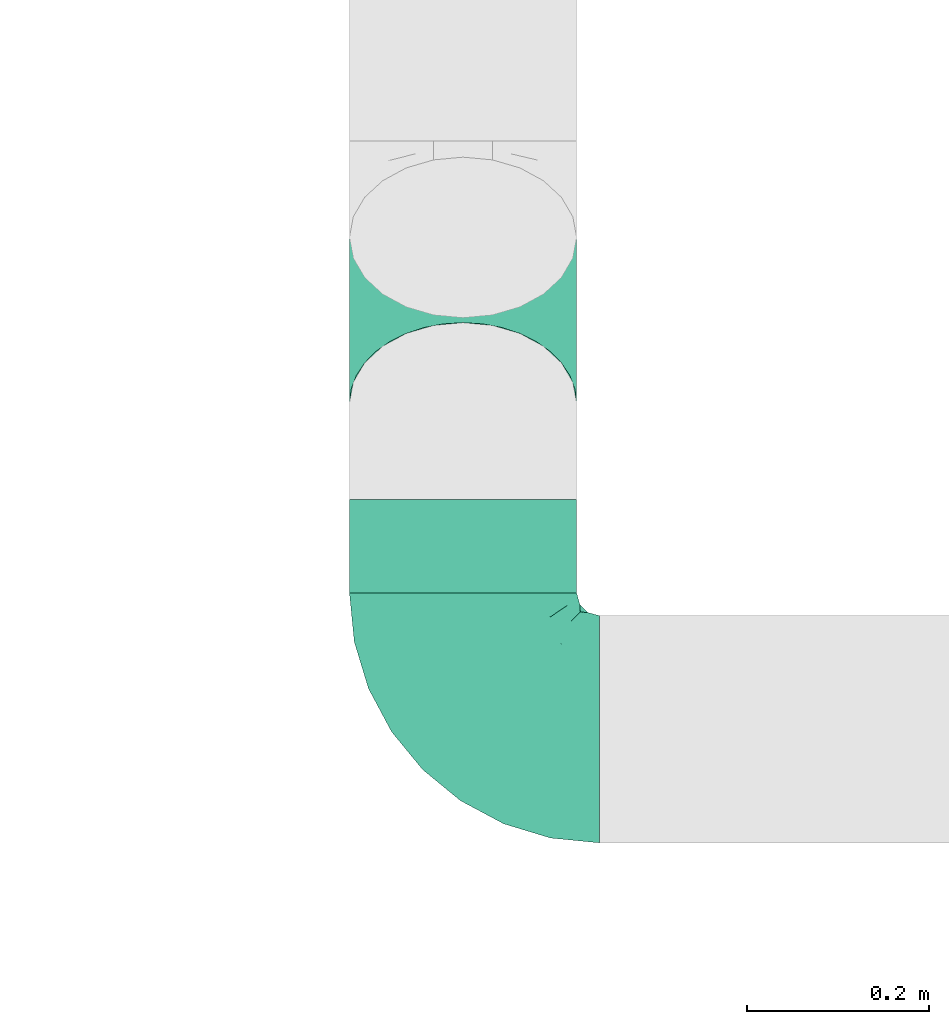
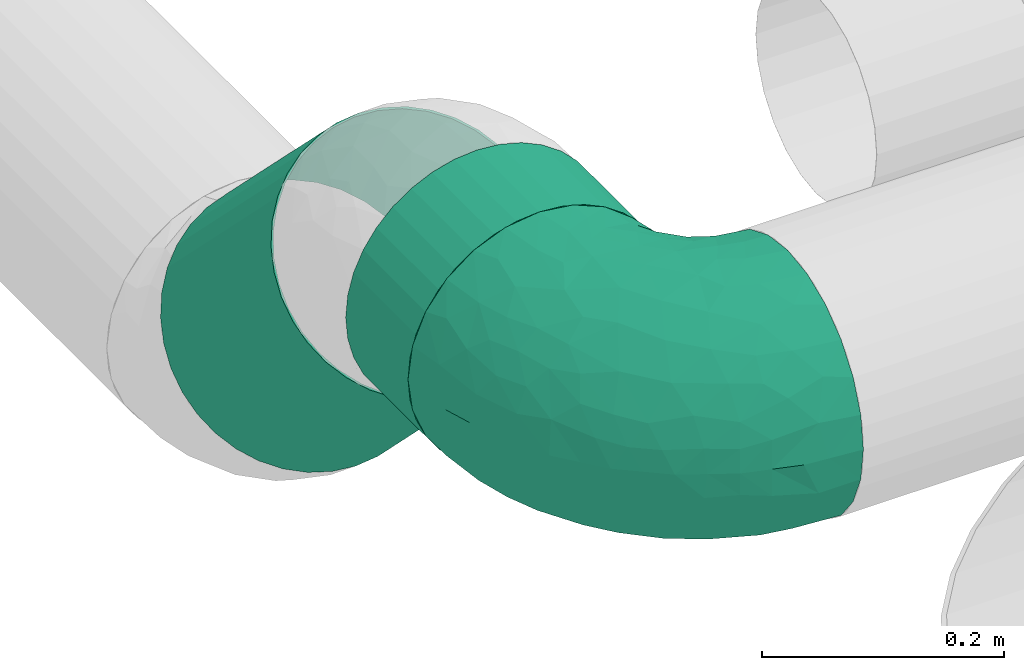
# One storey, part 13 of 31: 2 flow segments, 1 flow fitting.
"""IFC2X3 building model written with IfcOpenShell, lengths in millimetres."""

from ifc_helpers import new_model, entity, si_unit, converted_unit, derived_unit, direction, frame, origin_with_axes, origin_2d_with_axis, place, context, subcontext, project, spatial, hollow_circle, extrude, open_shell, surface_model, source, transform, mapped, type_object, element, save


model = new_model("IFC2X3")

# Units and contexts
model_context = context("Model", 3, precision=0.01, world=frame((0.0, 4.29681676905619e-09, 0.0)), true_north=direction((4.01073788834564e-13, 1.0)))
plan_context = context("Plan", 3, precision=0.01, world=frame((0.0, 4.29681676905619e-09, 0.0)), true_north=direction((4.01073788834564e-13, 1.0)))
body_context = subcontext(model_context, "Body", "Model", "MODEL_VIEW")
ifc_project = project(units=[converted_unit("PLANEANGLEUNIT", "DEGREE", entity("IfcPositiveLengthMeasure", 0.0174532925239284), si_unit("PLANEANGLEUNIT", "RADIAN"), dimensions=[0, 0, 0, 0, 0, 0, 0]), si_unit("AREAUNIT", "SQUARE_METRE"), si_unit("LENGTHUNIT", "METRE", prefix="MILLI"), si_unit("MASSUNIT", "GRAM", prefix="KILO"), si_unit("POWERUNIT", "WATT"), si_unit("PRESSUREUNIT", "PASCAL", prefix="KILO"), si_unit("FORCEUNIT", "NEWTON", prefix="KILO"), si_unit("ELECTRICVOLTAGEUNIT", "VOLT"), si_unit("ELECTRICCURRENTUNIT", "AMPERE"), si_unit("THERMODYNAMICTEMPERATUREUNIT", "DEGREE_CELSIUS"), si_unit("TIMEUNIT", "SECOND"), si_unit("VOLUMEUNIT", "CUBIC_METRE"), derived_unit("LINEARVELOCITYUNIT", [(si_unit("LENGTHUNIT", "METRE"), 1), (si_unit("TIMEUNIT", "SECOND"), -1)]), derived_unit("VOLUMETRICFLOWRATEUNIT", [(si_unit("VOLUMEUNIT", "CUBIC_METRE"), 1), (si_unit("TIMEUNIT", "SECOND"), -1)]), derived_unit("THERMALTRANSMITTANCEUNIT", [(si_unit("POWERUNIT", "WATT"), 1), (si_unit("THERMODYNAMICTEMPERATUREUNIT", "KELVIN"), -1), (si_unit("AREAUNIT", "SQUARE_METRE"), -1)]), derived_unit("SOUNDPRESSUREUNIT", [(si_unit("PRESSUREUNIT", "PASCAL"), 1)])], contexts=[model_context, plan_context])

# Site, building, storey
site_placement = place(None, frame((0.0, -4.29681676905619e-09, 0.0), z_axis=(0.0, 0.0, 1.0), x_axis=(1.0, 0.0, 0.0)))
site = spatial("IfcSite", under=ifc_project, at=site_placement, CompositionType="ELEMENT")
building_placement = place(site_placement, frame((0.0, 4.29681676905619e-09, 0.0), z_axis=(0.0, 0.0, 1.0), x_axis=(1.0, 0.0, 0.0)))
building = spatial("IfcBuilding", under=site, at=building_placement, Name="mc-building", CompositionType="ELEMENT")
storey_placement = place(building_placement, frame((0.0, 0.0, 210900.0), z_axis=(0.0, 0.0, 1.0), x_axis=(1.0, 0.0, 0.0)))
storey = spatial("IfcBuildingStorey", under=building, at=storey_placement, Name="Nivå F", CompositionType="ELEMENT", Elevation=210900.0)

# Flow fitting
duct_fitting_type = type_object("IfcDuctFittingType", Name="magicirc_elbow_short_001", PredefinedType="BEND")
shared_shape_1 = source(origin_with_axes(), body_context, "Body", "SurfaceModel", [
    surface_model("IfcShellBasedSurfaceModel", [(-150.0, 0.0, -125.0), (-150.0, -32.35238, -120.74073), (-150.0, 32.35238, -120.74073), (-150.0, 62.5, -108.25318), (-150.0, 88.38835, -88.38835), (-150.0, 108.25318, -62.5), (-150.0, 120.74073, -32.35238), (-150.0, -62.5, -108.25318), (-150.0, -88.38835, -88.38835), (-150.0, -125.0, 0.0), (-150.0, -108.25318, -62.5), (-150.0, -120.74073, -32.35238), (-150.0, 125.0, 0.0), (-150.0, -120.74073, 32.35238), (-150.0, 120.74073, 32.35238), (-150.0, 108.25318, 62.5), (-150.0, 32.35238, 120.74073), (-150.0, 62.5, 108.25318), (-150.0, 88.38835, 88.38835), (-150.0, -88.38835, 88.38835), (-150.0, -108.25318, 62.5), (-150.0, -32.35238, 120.74073), (-150.0, 0.0, 125.0), (-150.0, -62.5, 108.25318), (-32.35238, 150.0, -120.74073), (88.38835, 150.0, -88.38835), (0.0, 150.0, -125.0), (-88.38835, 150.0, -88.38835), (-62.5, 150.0, -108.25318), (-108.25318, 150.0, -62.5), (-120.74073, 150.0, -32.35238), (88.38835, 150.0, 88.38835), (32.35238, 150.0, -120.74073), (62.5, 150.0, -108.25318), (120.74073, 150.0, -32.35238), (108.25318, 150.0, -62.5), (125.0, 150.0, 0.0), (-125.0, 150.0, 0.0), (-120.74073, 150.0, 32.35238), (-32.35238, 150.0, 120.74073), (-108.25318, 150.0, 62.5), (-88.38835, 150.0, 88.38835), (-62.5, 150.0, 108.25318), (120.74073, 150.0, 32.35238), (108.25318, 150.0, 62.5), (62.5, 150.0, 108.25318), (0.0, 150.0, 125.0), (32.35238, 150.0, 120.74073), (3.43621, -49.5686, 72.62973), (-18.36868, -48.37229, 88.70337), (-18.83692, -66.65046, 70.44253), (-111.90441, -117.21345, 35.28889), (-118.95041, -121.94188, 0.0), (25.86906, 108.55436, 121.17479), (-75.7772, -90.32158, 72.9261), (-74.87608, -74.03385, 90.43438), (-106.18274, -83.07991, 89.59712), (-96.35016, -119.71595, 0.0), (-46.47779, 70.62109, 123.46212), (-76.11794, 76.11794, 116.41901), (-69.40624, 48.8823, 123.2752), (-124.4932, -102.85852, 69.13391), (61.55426, -23.61809, 0.0), (70.72079, -10.51336, 22.73937), (52.73629, -32.74631, 22.58023), (-124.77817, -54.06971, 111.94259), (-90.65624, -57.4337, 106.30719), (32.14495, -52.26832, 26.33949), (-0.28194, -75.27927, 33.26458), (23.61809, -61.55426, 0.0), (-95.68999, 131.65378, 83.88297), (-69.77814, 120.80048, 106.99559), (-67.0959, -108.40643, 29.86559), (-70.55611, -111.89141, 0.0), (-44.76206, -104.06687, 0.0), (-59.72745, 94.86231, 116.91683), (-108.55438, -25.86905, 121.17479), (54.06971, 124.77816, 111.94259), (-27.02672, -92.24399, 28.66038), (-115.00313, 7.3209, 124.96177), (37.68395, -37.68396, 47.97943), (-29.53309, 7.28525, 119.4722), (-3.39232, -9.52602, 105.74117), (0.96712, 29.12319, 117.22512), (-136.08989, 114.55349, 55.66419), (-123.43379, 95.73566, 87.17875), (-119.07435, 119.07435, 65.82439), (-129.09162, 129.09162, 33.48663), (-137.5, 128.34936, 0.0), (-121.4114, 69.81738, 106.84783), (-150.0, 47.42619, 114.49695), (-128.63564, 33.72653, 120.89263), (-27.58141, -83.17169, 52.68646), (-47.99632, -78.87458, 74.22581), (-54.84475, -96.13379, 51.52422), (103.28598, 90.85645, 59.18699), (90.74371, 74.5558, 71.84785), (96.43496, 48.91625, 45.66343), (-41.1276, 38.26732, 124.85571), (102.85852, 124.4932, 69.13391), (83.07991, 106.18274, 89.59712), (-94.00852, 107.9804, 96.05098), (74.96021, 76.43193, 90.06036), (117.21345, 111.90441, 35.28889), (121.94188, 118.95041, 0.0), (-47.30293, -61.16044, 91.82798), (78.87458, 47.99631, 74.22581), (76.94281, 15.76685, 52.00246), (-101.88517, 84.02177, 104.66367), (110.18665, 71.48082, 28.20521), (111.89141, 70.55611, 0.0), (55.40218, 7.25052, 74.8198), (24.63024, -24.60151, 78.91029), (58.21029, -16.89277, 44.41752), (57.4337, 90.65623, 106.30718), (30.02154, 57.30162, 113.4468), (-128.34936, 137.5, 0.0), (-73.97464, 6.61086, 124.39367), (-33.52256, 127.66016, 120.99202), (-7.19958, 114.11429, 124.96953), (-18.42999, 93.20127, 124.82066), (14.9991, 81.71173, 121.69074), (-109.70554, 132.7303, 65.99174), (-81.52168, -16.35182, 121.37252), (-56.488, -29.68334, 113.41267), (55.20354, 44.94313, 95.60044), (-90.85645, -103.28598, 59.18699), (-26.43187, -29.68413, 104.83883), (-7.20961, 68.77767, 124.18226), (30.67747, 15.69438, 99.90432), (-47.42619, 150.0, 114.49695), (-107.88822, 38.92177, 121.04182), (-96.15013, 61.71268, 115.9946), (-96.31285, 19.15333, 124.70605), (14.59493, -56.28029, 51.4962), (104.06687, 44.76206, 0.0), (102.01943, 45.4582, 23.12647), (89.00824, 19.09141, 24.82271), (119.71595, 96.35016, 0.0), (-20.99012, -91.36051, 0.0), (78.65415, -2.78181, 0.0), (91.36051, 20.99012, 0.0), (2.78181, -78.65415, 0.0), (44.45436, -44.45436, 0.0), (-38.84807, 105.96939, 121.23578), (-120.80048, 69.77814, -106.99559), (54.06971, 124.77816, -111.94259), (-90.65624, -57.4337, -106.30719), (-124.77817, -54.06971, -111.94259), (-108.55438, -25.86906, -121.17479), (-18.36869, -48.37229, -88.70338), (-18.83692, -66.65046, -70.44253), (-47.30293, -61.16045, -91.82798), (-96.31285, 19.15333, -124.70605), (-73.97463, 6.61086, -124.39367), (-115.00313, 7.3209, -124.96177), (14.9991, 81.71175, -121.69074), (25.86906, 108.55438, -121.17479), (30.02154, 57.30164, -113.44681), (-129.09162, 129.09162, -33.48663), (-95.73566, 123.43379, -87.17875), (-84.02176, 101.88516, -104.66368), (-107.9804, 94.00852, -96.05098), (-0.28194, -75.27927, -33.26458), (-131.65378, 95.68999, -83.88297), (-132.7303, 109.70554, -65.99174), (-107.88822, 38.92177, -121.04182), (-128.63564, 33.72653, -120.89263), (-119.07435, 119.07435, -65.82439), (-111.90441, -117.21345, -35.28889), (-76.11794, 76.11793, -116.41901), (-69.69403, 48.67006, -123.27304), (-95.38125, 59.83873, -116.77822), (-106.18274, -83.07991, -89.59712), (-3.39231, -9.52602, -105.74117), (24.63023, -24.60151, -78.91029), (-54.84475, -96.13379, -51.52422), (-75.7772, -90.32158, -72.9261), (-47.99632, -78.87458, -74.22581), (-124.4932, -102.85852, -69.13391), (30.67749, 15.69438, -99.9043), (0.96713, 29.12319, -117.22511), (-69.81738, 121.4114, -106.84784), (-27.02672, -92.24399, -28.66038), (-67.0959, -108.40643, -29.86559), (78.87458, 47.99631, -74.22581), (96.43495, 48.9163, -45.66349), (76.94285, 15.76686, -52.00241), (37.68395, -37.68396, -47.97943), (58.21029, -16.89277, -44.41752), (52.73629, -32.74631, -22.58023), (-48.07357, 68.7261, -123.44788), (-114.55349, 136.08989, -55.66419), (117.21345, 111.90441, -35.28889), (-7.19958, 114.11428, -124.96953), (-27.58141, -83.17169, -52.68646), (-47.42619, 150.0, -114.49695), (-33.52256, 127.66015, -120.99202), (32.14495, -52.26832, -26.33949), (14.59493, -56.28029, -51.4962), (83.07991, 106.18274, -89.59712), (102.85852, 124.4932, -69.13391), (89.00829, 19.0915, -24.82265), (70.72079, -10.51336, -22.73937), (57.4337, 90.65623, -106.30719), (110.18664, 71.4808, -28.20522), (102.0194, 45.45816, -23.12649), (-90.85645, -103.28598, -59.18699), (90.01217, 76.65037, -73.68876), (73.67235, 74.27652, -90.57836), (-29.53307, 7.28526, -119.4722), (-56.488, -29.68334, -113.41267), (-74.87608, -74.03385, -90.43438), (-81.52167, -16.35182, -121.37252), (-26.43187, -29.68413, -104.83883), (103.28598, 90.85645, -59.18699), (-18.42999, 93.20126, -124.82066), (-38.84807, 105.96939, -121.23578), (55.20355, 44.94317, -95.60045), (-150.0, 47.42619, -114.49695), (55.40223, 7.25057, -74.81978), (-61.71268, 96.15012, -115.9946), (-41.12759, 38.26731, -124.85571), (3.43621, -49.56858, -72.62973), (-7.2096, 68.77766, -124.18226)], [open_shell([[[0, 1, 2]], [[3, 2, 4]], [[1, 5, 2]], [[4, 2, 5]], [[5, 1, 6]], [[7, 8, 1]], [[9, 1, 8]], [[10, 11, 8]], [[9, 8, 11]], [[9, 6, 1]], [[9, 12, 6]], [[12, 13, 14]], [[15, 14, 16]], [[16, 17, 18]], [[15, 16, 18]], [[16, 14, 19]], [[20, 19, 13]], [[19, 14, 13]], [[21, 22, 23]], [[19, 23, 22]], [[19, 22, 16]], [[9, 13, 12]], [[24, 25, 26]], [[27, 24, 28]], [[29, 30, 24]], [[29, 24, 27]], [[24, 31, 25]], [[32, 25, 33]], [[32, 26, 25]], [[25, 34, 35]], [[34, 25, 36]], [[25, 31, 36]], [[24, 30, 37]], [[38, 31, 37]], [[39, 38, 40]], [[41, 42, 39]], [[41, 39, 40]], [[31, 38, 39]], [[43, 31, 44]], [[36, 31, 43]], [[45, 46, 47]], [[46, 45, 31]], [[39, 46, 31]], [[31, 24, 37]], [[48, 49, 50]], [[51, 13, 52]], [[53, 47, 46]], [[54, 55, 56]], [[52, 57, 51]], [[58, 59, 60]], [[20, 61, 19]], [[62, 63, 64]], [[65, 56, 66]], [[67, 68, 69]], [[41, 70, 71]], [[72, 73, 74]], [[59, 58, 75]], [[21, 76, 22]], [[77, 45, 47]], [[23, 19, 56]], [[72, 74, 78]], [[79, 16, 22]], [[76, 21, 65]], [[80, 67, 64]], [[81, 82, 83]], [[84, 85, 86]], [[87, 12, 14]], [[12, 87, 88]], [[18, 17, 89]], [[51, 20, 13]], [[18, 89, 85]], [[17, 90, 91]], [[84, 14, 15]], [[91, 90, 16]], [[92, 93, 94]], [[40, 70, 41]], [[95, 96, 97]], [[83, 98, 81]], [[44, 31, 99]], [[100, 31, 45]], [[86, 85, 101]], [[102, 96, 100]], [[103, 104, 43]], [[66, 55, 105]], [[77, 100, 45]], [[103, 43, 44]], [[97, 106, 107]], [[85, 15, 18]], [[108, 85, 89]], [[85, 84, 15]], [[103, 109, 110]], [[111, 112, 113]], [[114, 53, 115]], [[88, 87, 116]], [[60, 117, 98]], [[116, 87, 37]], [[85, 108, 101]], [[38, 37, 87]], [[71, 118, 42]], [[119, 120, 121]], [[122, 38, 87]], [[70, 122, 101]], [[123, 76, 124]], [[114, 115, 125]], [[119, 53, 46]], [[42, 41, 71]], [[77, 53, 114]], [[72, 78, 94]], [[54, 126, 94]], [[21, 23, 65]], [[124, 76, 66]], [[61, 56, 19]], [[76, 123, 79]], [[93, 105, 55]], [[124, 127, 81]], [[102, 100, 114]], [[99, 100, 95]], [[46, 39, 119]], [[115, 121, 128]], [[128, 83, 115]], [[115, 83, 129]], [[75, 101, 59]], [[118, 39, 130]], [[106, 111, 107]], [[125, 111, 106]], [[131, 89, 17]], [[108, 132, 59]], [[118, 119, 39]], [[119, 118, 120]], [[51, 57, 73]], [[61, 51, 126]], [[99, 103, 44]], [[109, 95, 97]], [[76, 79, 22]], [[133, 79, 117]], [[83, 128, 98]], [[129, 83, 82]], [[128, 120, 58]], [[59, 132, 60]], [[129, 82, 112]], [[125, 115, 129]], [[49, 112, 82]], [[80, 134, 67]], [[127, 49, 82]], [[93, 92, 50]], [[111, 125, 129]], [[125, 106, 102]], [[112, 111, 129]], [[111, 113, 107]], [[98, 117, 81]], [[124, 81, 117]], [[63, 113, 64]], [[135, 109, 136]], [[137, 97, 107]], [[97, 136, 109]], [[110, 138, 103]], [[103, 95, 109]], [[78, 74, 139]], [[73, 72, 51]], [[51, 72, 126]], [[68, 134, 50]], [[72, 94, 126]], [[92, 94, 78]], [[54, 94, 93]], [[63, 107, 113]], [[137, 140, 141]], [[68, 92, 78]], [[50, 49, 105]], [[78, 142, 68]], [[68, 142, 69]], [[67, 69, 143]], [[64, 67, 143]], [[68, 67, 134]], [[68, 50, 92]], [[48, 50, 134]], [[80, 48, 134]], [[112, 49, 48]], [[62, 140, 63]], [[80, 64, 113]], [[140, 137, 63]], [[107, 63, 137]], [[64, 143, 62]], [[113, 112, 80]], [[48, 80, 112]], [[55, 54, 93]], [[56, 126, 54]], [[93, 50, 105]], [[56, 55, 66]], [[127, 105, 49]], [[66, 105, 124]], [[132, 108, 89]], [[101, 108, 59]], [[89, 131, 132]], [[60, 98, 58]], [[132, 131, 60]], [[60, 131, 133]], [[128, 58, 98]], [[75, 58, 144]], [[144, 71, 75]], [[101, 75, 71]], [[122, 70, 40]], [[136, 141, 135]], [[71, 70, 101]], [[38, 122, 40]], [[101, 122, 86]], [[84, 87, 14]], [[122, 87, 86]], [[13, 9, 52]], [[104, 103, 138]], [[104, 36, 43]], [[87, 84, 86]], [[51, 61, 20]], [[56, 61, 126]], [[56, 65, 23]], [[76, 65, 66]], [[100, 99, 31]], [[103, 99, 95]], [[53, 77, 47]], [[100, 77, 114]], [[118, 71, 144]], [[120, 118, 144]], [[42, 118, 130]], [[79, 133, 91]], [[79, 91, 16]], [[17, 91, 131]], [[124, 117, 123]], [[79, 123, 117]], [[125, 102, 114]], [[96, 102, 106]], [[97, 96, 106]], [[100, 96, 95]], [[115, 53, 121]], [[119, 121, 53]], [[58, 120, 144]], [[121, 120, 128]], [[60, 133, 117]], [[91, 133, 131]], [[81, 127, 82]], [[105, 127, 124]], [[97, 137, 136]], [[141, 136, 137]], [[109, 135, 110]], [[139, 142, 78]], [[4, 145, 3]], [[32, 33, 146]], [[147, 148, 149]], [[150, 151, 152]], [[153, 154, 155]], [[156, 157, 158]], [[88, 159, 12]], [[160, 161, 162]], [[159, 6, 12]], [[142, 163, 69]], [[162, 164, 165]], [[3, 166, 167]], [[168, 160, 162]], [[159, 165, 6]], [[10, 169, 11]], [[169, 52, 11]], [[170, 171, 172]], [[7, 148, 173]], [[174, 175, 150]], [[176, 177, 178]], [[149, 1, 0]], [[34, 36, 104]], [[10, 8, 179]], [[180, 174, 181]], [[161, 160, 182]], [[183, 74, 184]], [[8, 7, 173]], [[185, 186, 187]], [[188, 189, 190]], [[159, 88, 116]], [[155, 149, 0]], [[37, 30, 159]], [[171, 170, 191]], [[192, 30, 29]], [[193, 35, 34]], [[4, 164, 145]], [[192, 160, 168]], [[24, 26, 194]], [[148, 7, 1]], [[155, 0, 2]], [[157, 194, 26]], [[163, 183, 195]], [[196, 24, 197]], [[198, 163, 199]], [[182, 160, 27]], [[160, 29, 27]], [[200, 33, 25]], [[35, 201, 25]], [[187, 186, 202]], [[203, 62, 190]], [[32, 146, 157]], [[200, 204, 146]], [[205, 135, 206]], [[184, 169, 207]], [[104, 138, 193]], [[34, 104, 193]], [[27, 28, 182]], [[183, 142, 139]], [[32, 157, 26]], [[200, 208, 209]], [[210, 181, 174]], [[147, 149, 211]], [[177, 212, 178]], [[37, 159, 116]], [[179, 173, 207]], [[5, 164, 4]], [[211, 213, 154]], [[210, 211, 154]], [[214, 174, 150]], [[201, 200, 25]], [[208, 200, 215]], [[158, 157, 204]], [[216, 217, 197]], [[204, 209, 218]], [[172, 162, 170]], [[167, 2, 219]], [[180, 175, 174]], [[187, 189, 220]], [[182, 28, 197]], [[161, 221, 170]], [[194, 157, 156]], [[28, 196, 197]], [[179, 169, 10]], [[169, 73, 57]], [[193, 110, 205]], [[201, 193, 215]], [[2, 167, 155]], [[155, 154, 213]], [[180, 181, 158]], [[181, 210, 222]], [[154, 153, 171]], [[170, 221, 191]], [[158, 218, 180]], [[180, 218, 220]], [[175, 180, 220]], [[195, 178, 151]], [[151, 223, 199]], [[212, 152, 178]], [[204, 218, 158]], [[185, 187, 220]], [[185, 220, 218]], [[175, 220, 189]], [[210, 174, 214]], [[154, 222, 210]], [[208, 186, 185]], [[187, 202, 203]], [[205, 186, 215]], [[206, 141, 202]], [[215, 193, 205]], [[169, 184, 73]], [[74, 73, 184]], [[184, 176, 183]], [[176, 184, 207]], [[183, 176, 195]], [[177, 176, 207]], [[195, 176, 178]], [[206, 186, 205]], [[207, 173, 177]], [[178, 152, 151]], [[195, 151, 163]], [[69, 163, 198]], [[142, 183, 163]], [[69, 198, 143]], [[188, 198, 199]], [[190, 143, 198]], [[223, 151, 150]], [[163, 151, 199]], [[150, 175, 223]], [[188, 223, 175]], [[223, 188, 199]], [[175, 189, 188]], [[188, 190, 198]], [[190, 189, 203]], [[187, 203, 189]], [[202, 140, 203]], [[62, 203, 140]], [[62, 143, 190]], [[212, 173, 147]], [[173, 212, 177]], [[147, 211, 152]], [[147, 152, 212]], [[214, 152, 211]], [[221, 161, 182]], [[162, 161, 170]], [[182, 217, 221]], [[191, 222, 171]], [[221, 217, 191]], [[191, 217, 216]], [[154, 171, 222]], [[172, 166, 145]], [[166, 172, 171]], [[162, 172, 145]], [[165, 164, 5]], [[141, 140, 202]], [[145, 164, 162]], [[6, 165, 5]], [[162, 165, 168]], [[192, 159, 30]], [[165, 159, 168]], [[52, 169, 57]], [[52, 9, 11]], [[160, 192, 29]], [[159, 192, 168]], [[173, 179, 8]], [[169, 179, 207]], [[149, 148, 1]], [[173, 148, 147]], [[193, 201, 35]], [[200, 201, 215]], [[200, 146, 33]], [[157, 146, 204]], [[217, 182, 197]], [[24, 194, 197]], [[216, 197, 194]], [[166, 3, 145]], [[3, 167, 219]], [[167, 166, 153]], [[211, 149, 213]], [[155, 213, 149]], [[186, 208, 215]], [[209, 208, 185]], [[218, 209, 185]], [[200, 209, 204]], [[156, 216, 194]], [[167, 153, 155]], [[171, 153, 166]], [[152, 214, 150]], [[210, 214, 211]], [[141, 206, 135]], [[202, 186, 206]], [[110, 193, 138]], [[110, 135, 205]], [[74, 183, 139]], [[191, 224, 222]], [[181, 222, 224]], [[181, 224, 158]], [[158, 224, 156]], [[156, 224, 216]], [[191, 216, 224]]])]),
])
flow_fitting_placement = place(storey_placement, frame((718845.42889, 440841.83428, 3795.0), z_axis=(0.0, 0.0, 1.0), x_axis=(0.0, -1.0, 0.0)))
element("IfcFlowFitting", 1, at=flow_fitting_placement, inside=storey, type_object=duct_fitting_type, Name="magicirc_elbow_short_001", context=body_context, shape_type="MappedRepresentation", body=[
    mapped(shared_shape_1, transform((0.0, 0.0, 0.0), scale=1.0)),
])

# Flow segments
duct_segment_type = type_object("IfcDuctSegmentType", Name="KK001T - Spiro kanaler, Forsinket stål", PredefinedType="RIGIDSEGMENT")
shared_shape_2 = source(origin_with_axes(), body_context, "Body", "SweptSolid", [
    extrude(hollow_circle(Radius=125.0, WallThickness=2.0, at=origin_2d_with_axis()), frame((0.0, 0.0, 0.0), z_axis=(1.0, 0.0, 0.0), x_axis=(0.0, 1.0, 0.0)), (0.0, 0.0, 1.0), 102.9),
])
flow_segment_1_placement = place(storey_placement, frame((718845.42889, 441094.7523, 3795.0), z_axis=(0.0, 0.0, 1.0), x_axis=(0.0, -1.0, 0.0)))
element("IfcFlowSegment", 2, at=flow_segment_1_placement, inside=storey, type_object=duct_segment_type, Name="KK001T - Spiro kanaler, Forsinket stål", context=body_context, shape_type="MappedRepresentation", body=[
    mapped(shared_shape_2, transform((0.0, 0.0, 0.0), scale=1.0)),
])
shared_shape_3 = source(origin_with_axes(), body_context, "Body", "SweptSolid", [
    extrude(hollow_circle(Radius=125.0, WallThickness=2.0, at=origin_2d_with_axis()), frame((0.0, 0.0, 0.0), z_axis=(1.0, 0.0, 0.0), x_axis=(0.0, 1.0, 0.0)), (0.0, 0.0, 1.0), 257.6),
])
flow_segment_2_placement = place(storey_placement, frame((718845.42889, 441382.95036, 3568.93398), z_axis=(0.0, 0.707106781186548, 0.707106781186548), x_axis=(0.0, -0.707106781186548, 0.707106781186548)))
element("IfcFlowSegment", 3, at=flow_segment_2_placement, inside=storey, type_object=duct_segment_type, Name="KK001T - Spiro kanaler, Forsinket stål", context=body_context, shape_type="MappedRepresentation", body=[
    mapped(shared_shape_3, transform((0.0, 0.0, 0.0), scale=1.0)),
])

save(model, "model.ifc")
